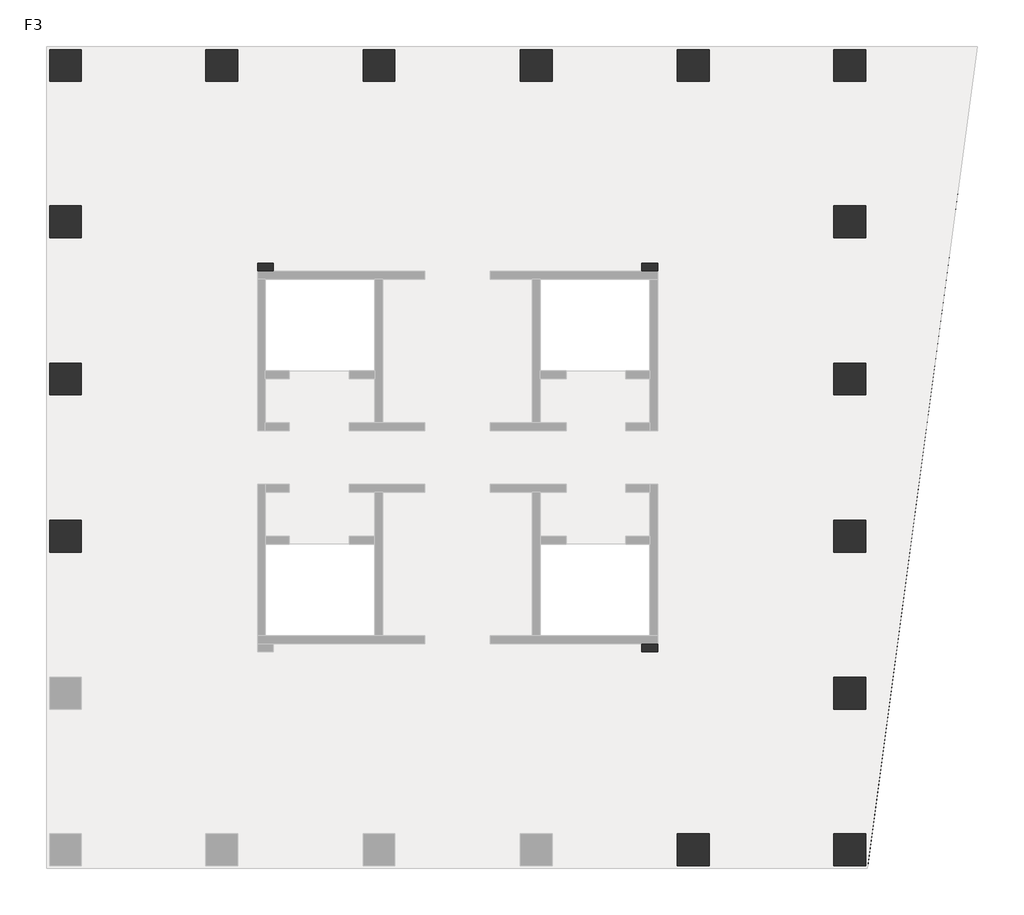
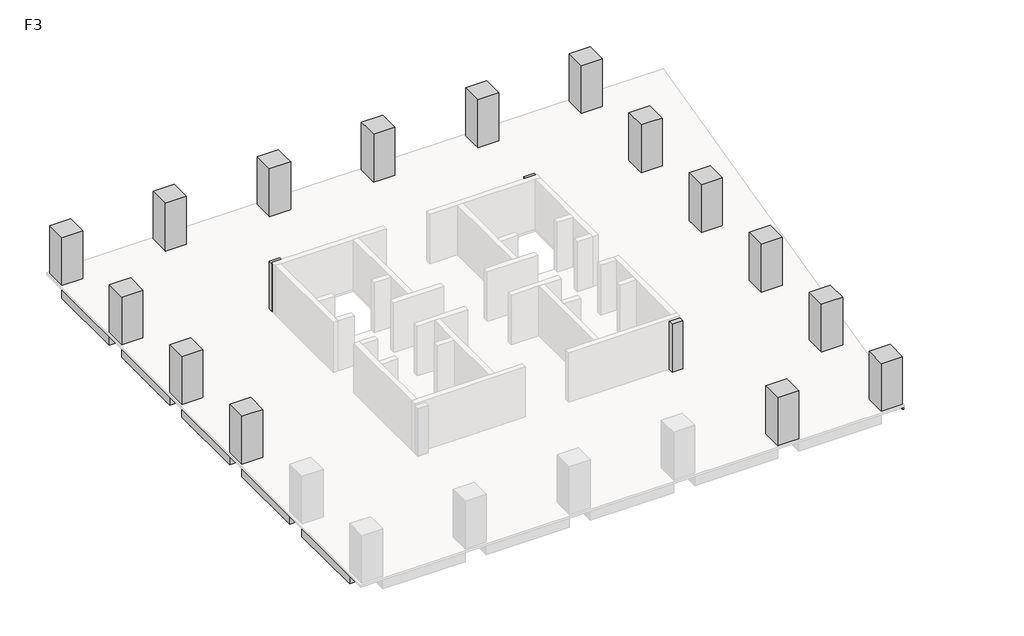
# One storey, part 2 of 2: 21 beams, 18 columns.
"""IFC4 building model written with IfcOpenShell, lengths in millimetres."""

from ifc_helpers import new_model, si_unit, frame, origin, place, context, project, spatial, polyline, outline, extrude, faceted_brep, element, save

model = new_model("IFC4")

# Units and contexts
model_context = context("Model", 3, world=origin())
ifc_project = project(units=[si_unit("LENGTHUNIT", "METRE", prefix="MILLI")], contexts=[model_context])

# Site, building, storey
site = spatial("IfcSite", under=ifc_project)
building = spatial("IfcBuilding", under=site)
storey = spatial("IfcBuildingStorey", under=building, Name="F3", Elevation=12000.0)

# Beams
placement = place(None, origin())
element("IfcBeam", 1, ObjectType="混凝土 - 矩形梁 : KL(5)-800x1000", at=placement, inside=storey, context=model_context, shape_type="SweptSolid", body=[
    extrude(outline(polyline([(25327.3257831, 27051.0498658), (25327.3257831, 26251.0498658), (19077.3257831, 26251.0498658), (19077.3257831, 27051.0498658), (25327.3257831, 27051.0498658)])), frame((0.0, 0.0, 11000.0), z_axis=(0.0, 0.0, 1.0), x_axis=(1.0, 0.0, 0.0)), (0.0, 0.0, 1.0), 840.0),
    extrude(outline(polyline([(-12472.6742169, 26251.0498658), (-12472.6742169, 27051.0498658), (-6222.6742169, 27051.0498658), (-6222.6742169, 26251.0498658), (-12472.6742169, 26251.0498658)])), frame((0.0, 0.0, 11000.0), z_axis=(0.0, 0.0, 1.0), x_axis=(1.0, 0.0, 0.0)), (0.0, 0.0, 1.0), 840.0),
    extrude(outline(polyline([(-4622.6742169, 26251.0498658), (-4622.6742169, 27051.0498658), (1677.3257831, 27051.0498658), (1677.3257831, 26251.0498658), (-4622.6742169, 26251.0498658)])), frame((0.0, 0.0, 11000.0), z_axis=(0.0, 0.0, 1.0), x_axis=(1.0, 0.0, 0.0)), (0.0, 0.0, 1.0), 840.0),
    extrude(outline(polyline([(3277.3257831, 26251.0498658), (3277.3257831, 27051.0498658), (9577.3257831, 27051.0498658), (9577.3257831, 26251.0498658), (3277.3257831, 26251.0498658)])), frame((0.0, 0.0, 11000.0), z_axis=(0.0, 0.0, 1.0), x_axis=(1.0, 0.0, 0.0)), (0.0, 0.0, 1.0), 840.0),
    extrude(outline(polyline([(11177.3257831, 26251.0498658), (11177.3257831, 27051.0498658), (17477.3257831, 27051.0498658), (17477.3257831, 26251.0498658), (11177.3257831, 26251.0498658)])), frame((0.0, 0.0, 11000.0), z_axis=(0.0, 0.0, 1.0), x_axis=(1.0, 0.0, 0.0)), (0.0, 0.0, 1.0), 840.0),
])
element("IfcBeam", 2, ObjectType="混凝土 - 矩形梁 : KL(5)-800x1000", at=placement, inside=storey, context=model_context, shape_type="Brep", body=[
    faceted_brep([(26927.3257831, 26251.0498658, 11000.0), (32422.0087099, 26251.0498658, 11000.0), (32422.0087099, 26251.0498658, 11840.0), (32018.4257091, 26251.0498658, 11840.0), (26927.3257831, 26251.0498658, 11840.0), (32422.0087099, 27051.0498658, 11000.0), (26927.3257831, 27051.0498658, 11000.0), (26927.3257831, 27051.0498658, 11840.0), (32422.0087099, 27051.0498658, 11840.0)], [[[0, 1, 2, 3, 4]], [[5, 1, 0, 6]], [[5, 6, 7, 8]], [[1, 5, 8, 2]], [[6, 0, 4, 7]], [[4, 3, 2, 8, 7]]]),
])
element("IfcBeam", 3, ObjectType="混凝土 - 矩形梁 : KL(5)-800x1000", at=placement, inside=storey, context=model_context, shape_type="Brep", body=[
    faceted_brep([(26127.3257831, -6098.9501342, 11000.0), (26127.3257831, -12348.9501342, 11000.0), (26127.3257831, -12348.9501342, 11840.0), (26127.3257831, -6098.9501342, 11840.0), (26927.3257831, -12348.9501342, 11000.0), (26927.3257831, -6098.9501342, 11000.0), (26927.3257831, -6098.9501342, 11840.0), (26927.3257831, -11700.7859463, 11840.0), (26927.3257831, -12348.9501342, 11840.0)], [[[0, 1, 2, 3]], [[4, 1, 0, 5]], [[4, 5, 6, 7, 8]], [[1, 4, 8, 2]], [[5, 0, 3, 6]], [[3, 2, 8, 7, 6]]]),
    faceted_brep([(26927.3257831, 25451.0498658, 11000.0), (26127.3257831, 25451.0498658, 11000.0), (26127.3257831, 25451.0498658, 11840.0), (26927.3257831, 25451.0498658, 11840.0), (26127.3257831, 19201.0498658, 11000.0), (26927.3257831, 19201.0498658, 11000.0), (26927.3257831, 19201.0498658, 11840.0), (26127.3257831, 19201.0498658, 11840.0)], [[[0, 1, 2, 3]], [[4, 5, 6, 7]], [[1, 4, 7, 2]], [[1, 0, 5, 4]], [[5, 0, 3, 6]], [[3, 2, 7, 6]]]),
    faceted_brep([(26927.3257831, 17601.0498658, 11000.0), (26127.3257831, 17601.0498658, 11000.0), (26127.3257831, 17601.0498658, 11840.0), (26927.3257831, 17601.0498658, 11840.0), (26127.3257831, 11301.0498658, 11000.0), (26927.3257831, 11301.0498658, 11000.0), (26927.3257831, 11301.0498658, 11840.0), (26127.3257831, 11301.0498658, 11840.0)], [[[0, 1, 2, 3]], [[4, 5, 6, 7]], [[1, 4, 7, 2]], [[1, 0, 5, 4]], [[5, 0, 3, 6]], [[3, 2, 7, 6]]]),
    faceted_brep([(26927.3257831, 9701.0498658, 11000.0), (26127.3257831, 9701.0498658, 11000.0), (26127.3257831, 9701.0498658, 11840.0), (26927.3257831, 9701.0498658, 11840.0), (26127.3257831, 3401.0498658, 11000.0), (26927.3257831, 3401.0498658, 11000.0), (26927.3257831, 3401.0498658, 11840.0), (26127.3257831, 3401.0498658, 11840.0)], [[[0, 1, 2, 3]], [[4, 5, 6, 7]], [[1, 4, 7, 2]], [[1, 0, 5, 4]], [[5, 0, 3, 6]], [[3, 2, 7, 6]]]),
    faceted_brep([(26927.3257831, 1801.0498658, 11000.0), (26127.3257831, 1801.0498658, 11000.0), (26127.3257831, 1801.0498658, 11840.0), (26927.3257831, 1801.0498658, 11840.0), (26127.3257831, -4498.9501342, 11000.0), (26927.3257831, -4498.9501342, 11000.0), (26927.3257831, -4498.9501342, 11840.0), (26127.3257831, -4498.9501342, 11840.0)], [[[0, 1, 2, 3]], [[4, 5, 6, 7]], [[1, 4, 7, 2]], [[1, 0, 5, 4]], [[5, 0, 3, 6]], [[3, 2, 7, 6]]]),
])
element("IfcBeam", 4, ObjectType="混凝土 - 矩形梁 : KL(5)-800x1000", at=placement, inside=storey, context=model_context, shape_type="SweptSolid", body=[
    extrude(outline(polyline([(-14072.6742169, 25451.0498658), (-13272.6742169, 25451.0498658), (-13272.6742169, 19201.0498658), (-14072.6742169, 19201.0498658), (-14072.6742169, 25451.0498658)])), frame((0.0, 0.0, 11000.0), z_axis=(0.0, 0.0, 1.0), x_axis=(1.0, 0.0, 0.0)), (0.0, 0.0, 1.0), 840.0),
    extrude(outline(polyline([(-13272.6742169, -12348.9501342), (-14072.6742169, -12348.9501342), (-14072.6742169, -6098.9501342), (-13272.6742169, -6098.9501342), (-13272.6742169, -12348.9501342)])), frame((0.0, 0.0, 11000.0), z_axis=(0.0, 0.0, 1.0), x_axis=(1.0, 0.0, 0.0)), (0.0, 0.0, 1.0), 840.0),
    extrude(outline(polyline([(-14072.6742169, 17601.0498658), (-13272.6742169, 17601.0498658), (-13272.6742169, 11301.0498658), (-14072.6742169, 11301.0498658), (-14072.6742169, 17601.0498658)])), frame((0.0, 0.0, 11000.0), z_axis=(0.0, 0.0, 1.0), x_axis=(1.0, 0.0, 0.0)), (0.0, 0.0, 1.0), 840.0),
    extrude(outline(polyline([(-14072.6742169, 9701.0498658), (-13272.6742169, 9701.0498658), (-13272.6742169, 3401.0498658), (-14072.6742169, 3401.0498658), (-14072.6742169, 9701.0498658)])), frame((0.0, 0.0, 11000.0), z_axis=(0.0, 0.0, 1.0), x_axis=(1.0, 0.0, 0.0)), (0.0, 0.0, 1.0), 840.0),
    extrude(outline(polyline([(-14072.6742169, 1801.0498658), (-13272.6742169, 1801.0498658), (-13272.6742169, -4498.9501342), (-14072.6742169, -4498.9501342), (-14072.6742169, 1801.0498658)])), frame((0.0, 0.0, 11000.0), z_axis=(0.0, 0.0, 1.0), x_axis=(1.0, 0.0, 0.0)), (0.0, 0.0, 1.0), 840.0),
])
element("IfcBeam", 5, ObjectType="混凝土 - 矩形梁 : L1-800x500", at=placement, inside=storey, context=model_context, shape_type="SweptSolid", body=[
    extrude(outline(polyline([(-12472.6742169, 2201.0498658), (-12472.6742169, 3001.0498658), (-3622.6742169, 3001.0498658), (-3622.6742169, 2201.0498658), (-12472.6742169, 2201.0498658)])), frame((0.0, 0.0, 11500.0), z_axis=(0.0, 0.0, 1.0), x_axis=(1.0, 0.0, 0.0)), (0.0, 0.0, 1.0), 340.0),
])
element("IfcBeam", 6, ObjectType="混凝土 - 矩形梁 : L1-800x500", at=placement, inside=storey, context=model_context, shape_type="SweptSolid", body=[
    extrude(outline(polyline([(-12472.6742169, 10101.0498658), (-12472.6742169, 10901.0498658), (-3622.6742169, 10901.0498658), (-3622.6742169, 10101.0498658), (-12472.6742169, 10101.0498658)])), frame((0.0, 0.0, 11500.0), z_axis=(0.0, 0.0, 1.0), x_axis=(1.0, 0.0, 0.0)), (0.0, 0.0, 1.0), 340.0),
])
element("IfcBeam", 7, ObjectType="混凝土 - 矩形梁 : L1-800x500", at=placement, inside=storey, context=model_context, shape_type="Brep", body=[
    faceted_brep([(-12472.6742169, 17789.85471, 11500.0), (-3622.6742169, 15588.3621727, 11500.0), (-3622.6742169, 15588.3621727, 11840.0), (-12472.6742169, 17789.85471, 11840.0), (-3173.6696907, 16301.0498658, 11500.0), (-3622.6742169, 16301.0498658, 11500.0), (-3622.6742169, 15901.0498658, 11500.0), (-12472.6742169, 18614.2350714, 11500.0), (-3746.9473979, 16443.6562607, 11500.0), (-12472.6742169, 18614.2350714, 11840.0), (-3746.9473979, 16443.6562607, 11840.0), (-3173.6696907, 16301.0498658, 11840.0), (-3622.6742169, 16301.0498658, 11840.0)], [[[0, 1, 2, 3]], [[4, 5, 6, 1, 0, 7, 8]], [[4, 8, 7, 9, 10, 11]], [[6, 5, 12, 2, 1]], [[5, 4, 11, 12]], [[7, 0, 3, 9]], [[3, 2, 12, 11, 10, 9]]]),
])
element("IfcBeam", 8, ObjectType="混凝土 - 矩形梁 : L1-800x500", at=placement, inside=storey, context=model_context, shape_type="SweptSolid", body=[
    extrude(outline(polyline([(-3173.6696907, 16301.0498658), (-3746.9473979, 16443.6562607), (-5661.5624638, 25451.0498658), (-4843.6893517, 25451.0498658), (-2898.7618154, 16301.0498658), (-3173.6696907, 16301.0498658)])), frame((0.0, 0.0, 11500.0), z_axis=(0.0, 0.0, 1.0), x_axis=(1.0, 0.0, 0.0)), (0.0, 0.0, 1.0), 340.0),
])
element("IfcBeam", 9, ObjectType="混凝土 - 矩形梁 : L1-800x500", at=placement, inside=storey, context=model_context, shape_type="SweptSolid", body=[
    extrude(outline(polyline([(2077.3257831, 25451.0498658), (2877.3257831, 25451.0498658), (2877.3257831, 15901.0498658), (2077.3257831, 15901.0498658), (2077.3257831, 25451.0498658)])), frame((0.0, 0.0, 11500.0), z_axis=(0.0, 0.0, 1.0), x_axis=(1.0, 0.0, 0.0)), (0.0, 0.0, 1.0), 340.0),
])
element("IfcBeam", 10, ObjectType="混凝土 - 矩形梁 : L1-800x500", at=placement, inside=storey, context=model_context, shape_type="SweptSolid", body=[
    extrude(outline(polyline([(9977.3257831, 25451.0498658), (10777.3257831, 25451.0498658), (10777.3257831, 15901.0498658), (9977.3257831, 15901.0498658), (9977.3257831, 25451.0498658)])), frame((0.0, 0.0, 11500.0), z_axis=(0.0, 0.0, 1.0), x_axis=(1.0, 0.0, 0.0)), (0.0, 0.0, 1.0), 340.0),
])
element("IfcBeam", 11, ObjectType="混凝土 - 矩形梁 : L1-800x500", at=placement, inside=storey, context=model_context, shape_type="Brep", body=[
    faceted_brep([(25327.3257831, -4687.7549784, 11500.0), (16477.3257831, -2486.2624411, 11500.0), (16477.3257831, -2486.2624411, 11840.0), (25327.3257831, -4687.7549784, 11840.0), (16028.3212569, -3198.9501342, 11500.0), (16477.3257831, -3198.9501342, 11500.0), (16477.3257831, -2798.9501342, 11500.0), (25327.3257831, -5512.1353397, 11500.0), (16601.5989641, -3341.556529, 11500.0), (25327.3257831, -5512.1353397, 11840.0), (16601.5989641, -3341.556529, 11840.0), (16028.3212569, -3198.9501342, 11840.0), (16477.3257831, -3198.9501342, 11840.0)], [[[0, 1, 2, 3]], [[4, 5, 6, 1, 0, 7, 8]], [[4, 8, 7, 9, 10, 11]], [[6, 5, 12, 2, 1]], [[5, 4, 11, 12]], [[7, 0, 3, 9]], [[3, 2, 12, 11, 10, 9]]]),
])
element("IfcBeam", 12, ObjectType="混凝土 - 矩形梁 : L1-800x500", at=placement, inside=storey, context=model_context, shape_type="SweptSolid", body=[
    extrude(outline(polyline([(16028.3212569, -3198.9501342), (16601.5989641, -3341.556529), (18516.21403, -12348.9501342), (17698.3409179, -12348.9501342), (15753.4133817, -3198.9501342), (16028.3212569, -3198.9501342)])), frame((0.0, 0.0, 11500.0), z_axis=(0.0, 0.0, 1.0), x_axis=(1.0, 0.0, 0.0)), (0.0, 0.0, 1.0), 340.0),
])
element("IfcBeam", 13, ObjectType="混凝土 - 矩形梁 : L1-800x500", at=placement, inside=storey, context=model_context, shape_type="SweptSolid", body=[
    extrude(outline(polyline([(25327.3257831, 3001.0498658), (25327.3257831, 2201.0498658), (16477.3257831, 2201.0498658), (16477.3257831, 3001.0498658), (25327.3257831, 3001.0498658)])), frame((0.0, 0.0, 11500.0), z_axis=(0.0, 0.0, 1.0), x_axis=(1.0, 0.0, 0.0)), (0.0, 0.0, 1.0), 340.0),
])
element("IfcBeam", 14, ObjectType="混凝土 - 矩形梁 : L1-800x500", at=placement, inside=storey, context=model_context, shape_type="SweptSolid", body=[
    extrude(outline(polyline([(25327.3257831, 10901.0498658), (25327.3257831, 10101.0498658), (16477.3257831, 10101.0498658), (16477.3257831, 10901.0498658), (25327.3257831, 10901.0498658)])), frame((0.0, 0.0, 11500.0), z_axis=(0.0, 0.0, 1.0), x_axis=(1.0, 0.0, 0.0)), (0.0, 0.0, 1.0), 340.0),
])
element("IfcBeam", 15, ObjectType="混凝土 - 矩形梁 : L1-800x500", at=placement, inside=storey, context=model_context, shape_type="Brep", body=[
    faceted_brep([(25327.3257831, 18610.6867312, 11500.0), (16590.8993897, 16393.3196262, 11500.0), (16227.3565337, 16301.0498658, 11500.0), (16227.3565337, 16301.0498658, 11840.0), (16590.8993897, 16393.3196262, 11840.0), (25327.3257831, 18610.6867312, 11840.0), (16477.3257831, 16301.0498658, 11500.0), (25327.3257831, 17785.3216299, 11500.0), (16477.3257831, 15539.1287365, 11500.0), (16477.3257831, 15901.0498658, 11500.0), (25327.3257831, 17785.3216299, 11840.0), (16477.3257831, 15539.1287365, 11840.0), (16477.3257831, 16301.0498658, 11840.0)], [[[0, 1, 2, 3, 4, 5]], [[6, 2, 1, 0, 7, 8, 9]], [[8, 7, 10, 11]], [[9, 8, 11, 12, 6]], [[2, 6, 12, 3]], [[7, 0, 5, 10]], [[5, 4, 3, 12, 11, 10]]]),
])
element("IfcBeam", 16, ObjectType="混凝土 - 矩形梁 : L1-800x500", at=placement, inside=storey, context=model_context, shape_type="SweptSolid", body=[
    extrude(outline(polyline([(16590.8993897, 16393.3196262), (16227.3565337, 16301.0498658), (15753.4133817, 16301.0498658), (17698.3409179, 25451.0498658), (18516.21403, 25451.0498658), (16590.8993897, 16393.3196262)])), frame((0.0, 0.0, 11500.0), z_axis=(0.0, 0.0, 1.0), x_axis=(1.0, 0.0, 0.0)), (0.0, 0.0, 1.0), 340.0),
])
element("IfcBeam", 17, ObjectType="混凝土 - 矩形梁 : L2-400x400", at=placement, inside=storey, context=model_context, shape_type="Brep", body=[
    faceted_brep([(32422.0087099, 26251.0498658, 11600.0), (27029.3257831, -13948.9501342, 11600.0), (26927.3257831, -13935.2672073, 11600.0), (26927.3257831, -11700.7859463, 11600.0), (27759.2793677, -5498.9501342, 11600.0), (27812.9379042, -5098.9501342, 11600.0), (28819.0354652, 2401.0498658, 11600.0), (28872.6940018, 2801.0498658, 11600.0), (29878.7915628, 10301.0498658, 11600.0), (29932.4500994, 10701.0498658, 11600.0), (30938.5476603, 18201.0498658, 11600.0), (30992.2061969, 18601.0498658, 11600.0), (32018.4257091, 26251.0498658, 11600.0), (32422.0087099, 26251.0498658, 11840.0), (27029.3257831, -13948.9501342, 11840.0), (32018.4257091, 26251.0498658, 11840.0), (26927.3257831, -13935.2672073, 11840.0), (26927.3257831, -12348.9501342, 11840.0), (26927.3257831, -11700.7859463, 11840.0), (27759.2793677, -5498.9501342, 11840.0), (27812.9379042, -5098.9501342, 11840.0), (28819.0354652, 2401.0498658, 11840.0), (28872.6940018, 2801.0498658, 11840.0), (29878.7915628, 10301.0498658, 11840.0), (29932.4500994, 10701.0498658, 11840.0), (30938.5476603, 18201.0498658, 11840.0), (30992.2061969, 18601.0498658, 11840.0)], [[[0, 1, 2, 3, 4, 5, 6, 7, 8, 9, 10, 11, 12]], [[1, 0, 13, 14]], [[0, 12, 15, 13]], [[3, 2, 16, 17, 18]], [[12, 11, 10, 9, 8, 7, 6, 5, 4, 3, 18, 19, 20, 21, 22, 23, 24, 25, 26, 15]], [[2, 1, 14, 16]], [[14, 13, 15, 26, 25, 24, 23, 22, 21, 20, 19, 18, 17, 16]]]),
])
element("IfcBeam", 18, ObjectType="混凝土 - 矩形梁 : L2-400x400", at=placement, inside=storey, context=model_context, shape_type="SweptSolid", body=[
    extrude(outline(polyline([(30938.5476603, 18201.0498658), (26927.3257831, 18201.0498658), (26927.3257831, 18601.0498658), (30992.2061969, 18601.0498658), (30938.5476603, 18201.0498658)])), frame((0.0, 0.0, 11600.0), z_axis=(0.0, 0.0, 1.0), x_axis=(1.0, 0.0, 0.0)), (0.0, 0.0, 1.0), 240.0),
])
element("IfcBeam", 19, ObjectType="混凝土 - 矩形梁 : L2-400x400", at=placement, inside=storey, context=model_context, shape_type="SweptSolid", body=[
    extrude(outline(polyline([(29878.7915628, 10301.0498658), (26927.3257831, 10301.0498658), (26927.3257831, 10701.0498658), (29932.4500994, 10701.0498658), (29878.7915628, 10301.0498658)])), frame((0.0, 0.0, 11600.0), z_axis=(0.0, 0.0, 1.0), x_axis=(1.0, 0.0, 0.0)), (0.0, 0.0, 1.0), 240.0),
])
element("IfcBeam", 20, ObjectType="混凝土 - 矩形梁 : L2-400x400", at=placement, inside=storey, context=model_context, shape_type="SweptSolid", body=[
    extrude(outline(polyline([(28819.0354652, 2401.0498658), (26927.3257831, 2401.0498658), (26927.3257831, 2801.0498658), (28872.6940018, 2801.0498658), (28819.0354652, 2401.0498658)])), frame((0.0, 0.0, 11600.0), z_axis=(0.0, 0.0, 1.0), x_axis=(1.0, 0.0, 0.0)), (0.0, 0.0, 1.0), 240.0),
])
element("IfcBeam", 21, ObjectType="混凝土 - 矩形梁 : L2-400x400", at=placement, inside=storey, context=model_context, shape_type="SweptSolid", body=[
    extrude(outline(polyline([(27759.2793677, -5498.9501342), (26927.3257831, -5498.9501342), (26927.3257831, -5098.9501342), (27812.9379042, -5098.9501342), (27759.2793677, -5498.9501342)])), frame((0.0, 0.0, 11600.0), z_axis=(0.0, 0.0, 1.0), x_axis=(1.0, 0.0, 0.0)), (0.0, 0.0, 1.0), 240.0),
])

# Columns
element("IfcColumn", 22, ObjectType="混凝土 - 矩形 - 柱 : Z1-1600x1600", at=placement, inside=storey, context=model_context, shape_type="SweptSolid", body=[
    extrude(outline(polyline([(-12472.6742169, 27051.0498658), (-12472.6742169, 25451.0498658), (-14072.6742169, 25451.0498658), (-14072.6742169, 27051.0498658), (-12472.6742169, 27051.0498658)])), frame((0.0, 0.0, 12000.0), z_axis=(0.0, 0.0, 1.0), x_axis=(1.0, 0.0, 0.0)), (0.0, 0.0, 1.0), 3840.0),
])
element("IfcColumn", 23, ObjectType="混凝土 - 矩形 - 柱 : Z1-1600x1600", at=placement, inside=storey, context=model_context, shape_type="Brep", body=[
    faceted_brep([(-4622.6742169, 27051.0498658, 12000.0), (-4622.6742169, 25451.0498658, 12000.0), (-6222.6742169, 25451.0498658, 12000.0), (-6222.6742169, 27051.0498658, 12000.0), (-4622.6742169, 27051.0498658, 15000.0), (-4622.6742169, 27051.0498658, 15840.0), (-4622.6742169, 26251.0498658, 15840.0), (-4622.6742169, 25451.0498658, 15840.0), (-6222.6742169, 25451.0498658, 15840.0), (-6222.6742169, 26251.0498658, 15840.0), (-6222.6742169, 27051.0498658, 15840.0), (-6222.6742169, 27051.0498658, 15000.0)], [[[0, 1, 2, 3]], [[1, 0, 4, 5, 6, 7]], [[2, 1, 7, 8]], [[3, 2, 8, 9, 10, 11]], [[0, 3, 11, 10, 5, 4]], [[7, 6, 5, 10, 9, 8]]]),
])
element("IfcColumn", 24, ObjectType="混凝土 - 矩形 - 柱 : Z1-1600x1600", at=placement, inside=storey, context=model_context, shape_type="Brep", body=[
    faceted_brep([(-12472.6742169, 19201.0498658, 12000.0), (-12472.6742169, 17601.0498658, 12000.0), (-14072.6742169, 17601.0498658, 12000.0), (-14072.6742169, 19201.0498658, 12000.0), (-12472.6742169, 19201.0498658, 15840.0), (-12472.6742169, 17601.0498658, 15840.0), (-13272.6742169, 17601.0498658, 15840.0), (-14072.6742169, 17601.0498658, 15840.0), (-14072.6742169, 17601.0498658, 15000.0), (-14072.6742169, 19201.0498658, 15840.0), (-14072.6742169, 19201.0498658, 15000.0), (-13272.6742169, 19201.0498658, 15840.0)], [[[0, 1, 2, 3]], [[1, 0, 4, 5]], [[2, 1, 5, 6, 7, 8]], [[3, 2, 8, 7, 9, 10]], [[0, 3, 10, 9, 11, 4]], [[5, 4, 11, 9, 7, 6]]]),
])
element("IfcColumn", 25, ObjectType="混凝土 - 矩形 - 柱 : Z1-1600x1600", at=placement, inside=storey, context=model_context, shape_type="Brep", body=[
    faceted_brep([(-12472.6742169, 11301.0498658, 12000.0), (-12472.6742169, 9701.0498658, 12000.0), (-14072.6742169, 9701.0498658, 12000.0), (-14072.6742169, 11301.0498658, 12000.0), (-12472.6742169, 11301.0498658, 15840.0), (-12472.6742169, 9701.0498658, 15840.0), (-13272.6742169, 9701.0498658, 15840.0), (-14072.6742169, 9701.0498658, 15840.0), (-14072.6742169, 9701.0498658, 15000.0), (-14072.6742169, 11301.0498658, 15840.0), (-14072.6742169, 11301.0498658, 15000.0), (-13272.6742169, 11301.0498658, 15840.0)], [[[0, 1, 2, 3]], [[1, 0, 4, 5]], [[2, 1, 5, 6, 7, 8]], [[3, 2, 8, 7, 9, 10]], [[0, 3, 10, 9, 11, 4]], [[5, 4, 11, 9, 7, 6]]]),
])
element("IfcColumn", 26, ObjectType="混凝土 - 矩形 - 柱 : Z1-1600x1600", at=placement, inside=storey, context=model_context, shape_type="Brep", body=[
    faceted_brep([(-12472.6742169, 3401.0498658, 12000.0), (-12472.6742169, 1801.0498658, 12000.0), (-14072.6742169, 1801.0498658, 12000.0), (-14072.6742169, 3401.0498658, 12000.0), (-12472.6742169, 3401.0498658, 15840.0), (-12472.6742169, 1801.0498658, 15840.0), (-13272.6742169, 1801.0498658, 15840.0), (-14072.6742169, 1801.0498658, 15840.0), (-14072.6742169, 1801.0498658, 15000.0), (-14072.6742169, 3401.0498658, 15840.0), (-14072.6742169, 3401.0498658, 15000.0), (-13272.6742169, 3401.0498658, 15840.0)], [[[0, 1, 2, 3]], [[1, 0, 4, 5]], [[2, 1, 5, 6, 7, 8]], [[3, 2, 8, 7, 9, 10]], [[0, 3, 10, 9, 11, 4]], [[5, 4, 11, 9, 7, 6]]]),
])
element("IfcColumn", 27, ObjectType="混凝土 - 矩形 - 柱 : Z1-1600x1600", at=placement, inside=storey, context=model_context, shape_type="SweptSolid", body=[
    extrude(outline(polyline([(25327.3257831, 27051.0498658), (26927.3257831, 27051.0498658), (26927.3257831, 25451.0498658), (25327.3257831, 25451.0498658), (25327.3257831, 27051.0498658)])), frame((0.0, 0.0, 12000.0), z_axis=(0.0, 0.0, 1.0), x_axis=(1.0, 0.0, 0.0)), (0.0, 0.0, 1.0), 3840.0),
])
element("IfcColumn", 28, ObjectType="混凝土 - 矩形 - 柱 : Z1-1600x1600", at=placement, inside=storey, context=model_context, shape_type="Brep", body=[
    faceted_brep([(25327.3257831, 19201.0498658, 12000.0), (26927.3257831, 19201.0498658, 12000.0), (26927.3257831, 17601.0498658, 12000.0), (25327.3257831, 17601.0498658, 12000.0), (25327.3257831, 17601.0498658, 15840.0), (25327.3257831, 19201.0498658, 15840.0), (26927.3257831, 17601.0498658, 15000.0), (26927.3257831, 17601.0498658, 15840.0), (26127.3257831, 17601.0498658, 15840.0), (26927.3257831, 19201.0498658, 15000.0), (26927.3257831, 19201.0498658, 15840.0), (26127.3257831, 19201.0498658, 15840.0)], [[[0, 1, 2, 3]], [[0, 3, 4, 5]], [[3, 2, 6, 7, 8, 4]], [[2, 1, 9, 10, 7, 6]], [[1, 0, 5, 11, 10, 9]], [[5, 4, 8, 7, 10, 11]]]),
])
element("IfcColumn", 29, ObjectType="混凝土 - 矩形 - 柱 : Z1-1600x1600", at=placement, inside=storey, context=model_context, shape_type="Brep", body=[
    faceted_brep([(25327.3257831, 11301.0498658, 12000.0), (26927.3257831, 11301.0498658, 12000.0), (26927.3257831, 9701.0498658, 12000.0), (25327.3257831, 9701.0498658, 12000.0), (25327.3257831, 9701.0498658, 15840.0), (25327.3257831, 11301.0498658, 15840.0), (26927.3257831, 9701.0498658, 15000.0), (26927.3257831, 9701.0498658, 15840.0), (26127.3257831, 9701.0498658, 15840.0), (26927.3257831, 11301.0498658, 15000.0), (26927.3257831, 11301.0498658, 15840.0), (26127.3257831, 11301.0498658, 15840.0)], [[[0, 1, 2, 3]], [[0, 3, 4, 5]], [[3, 2, 6, 7, 8, 4]], [[2, 1, 9, 10, 7, 6]], [[1, 0, 5, 11, 10, 9]], [[5, 4, 8, 7, 10, 11]]]),
])
element("IfcColumn", 30, ObjectType="混凝土 - 矩形 - 柱 : Z1-1600x1600", at=placement, inside=storey, context=model_context, shape_type="Brep", body=[
    faceted_brep([(25327.3257831, 3401.0498658, 12000.0), (26927.3257831, 3401.0498658, 12000.0), (26927.3257831, 1801.0498658, 12000.0), (25327.3257831, 1801.0498658, 12000.0), (25327.3257831, 1801.0498658, 15840.0), (25327.3257831, 3401.0498658, 15840.0), (26927.3257831, 1801.0498658, 15000.0), (26927.3257831, 1801.0498658, 15840.0), (26127.3257831, 1801.0498658, 15840.0), (26927.3257831, 3401.0498658, 15000.0), (26927.3257831, 3401.0498658, 15840.0), (26127.3257831, 3401.0498658, 15840.0)], [[[0, 1, 2, 3]], [[0, 3, 4, 5]], [[3, 2, 6, 7, 8, 4]], [[2, 1, 9, 10, 7, 6]], [[1, 0, 5, 11, 10, 9]], [[5, 4, 8, 7, 10, 11]]]),
])
element("IfcColumn", 31, ObjectType="混凝土 - 矩形 - 柱 : Z1-1600x1600", at=placement, inside=storey, context=model_context, shape_type="Brep", body=[
    faceted_brep([(25327.3257831, -4498.9501342, 12000.0), (26927.3257831, -4498.9501342, 12000.0), (26927.3257831, -6098.9501342, 12000.0), (25327.3257831, -6098.9501342, 12000.0), (25327.3257831, -6098.9501342, 15840.0), (25327.3257831, -4498.9501342, 15840.0), (26927.3257831, -6098.9501342, 15000.0), (26927.3257831, -6098.9501342, 15840.0), (26127.3257831, -6098.9501342, 15840.0), (26927.3257831, -4498.9501342, 15000.0), (26927.3257831, -4498.9501342, 15840.0), (26127.3257831, -4498.9501342, 15840.0)], [[[0, 1, 2, 3]], [[0, 3, 4, 5]], [[3, 2, 6, 7, 8, 4]], [[2, 1, 9, 10, 7, 6]], [[1, 0, 5, 11, 10, 9]], [[5, 4, 8, 7, 10, 11]]]),
])
element("IfcColumn", 32, ObjectType="混凝土 - 矩形 - 柱 : Z1-1600x1600", at=placement, inside=storey, context=model_context, shape_type="SweptSolid", body=[
    extrude(outline(polyline([(25327.3257831, -12348.9501342), (26927.3257831, -12348.9501342), (26927.3257831, -13948.9501342), (25327.3257831, -13948.9501342), (25327.3257831, -12348.9501342)])), frame((0.0, 0.0, 12000.0), z_axis=(0.0, 0.0, 1.0), x_axis=(1.0, 0.0, 0.0)), (0.0, 0.0, 1.0), 3840.0),
])
element("IfcColumn", 33, ObjectType="混凝土 - 矩形 - 柱 : Z1-1600x1600", at=placement, inside=storey, context=model_context, shape_type="Brep", body=[
    faceted_brep([(3277.3257831, 27051.0498658, 12000.0), (3277.3257831, 25451.0498658, 12000.0), (1677.3257831, 25451.0498658, 12000.0), (1677.3257831, 27051.0498658, 12000.0), (3277.3257831, 27051.0498658, 15000.0), (3277.3257831, 27051.0498658, 15840.0), (3277.3257831, 26251.0498658, 15840.0), (3277.3257831, 25451.0498658, 15840.0), (1677.3257831, 25451.0498658, 15840.0), (1677.3257831, 26251.0498658, 15840.0), (1677.3257831, 27051.0498658, 15840.0), (1677.3257831, 27051.0498658, 15000.0)], [[[0, 1, 2, 3]], [[1, 0, 4, 5, 6, 7]], [[2, 1, 7, 8]], [[3, 2, 8, 9, 10, 11]], [[0, 3, 11, 10, 5, 4]], [[7, 6, 5, 10, 9, 8]]]),
])
element("IfcColumn", 34, ObjectType="混凝土 - 矩形 - 柱 : Z1-1600x1600", at=placement, inside=storey, context=model_context, shape_type="Brep", body=[
    faceted_brep([(11177.3257831, 27051.0498658, 12000.0), (11177.3257831, 25451.0498658, 12000.0), (9577.3257831, 25451.0498658, 12000.0), (9577.3257831, 27051.0498658, 12000.0), (11177.3257831, 27051.0498658, 15000.0), (11177.3257831, 27051.0498658, 15840.0), (11177.3257831, 26251.0498658, 15840.0), (11177.3257831, 25451.0498658, 15840.0), (9577.3257831, 25451.0498658, 15840.0), (9577.3257831, 26251.0498658, 15840.0), (9577.3257831, 27051.0498658, 15840.0), (9577.3257831, 27051.0498658, 15000.0)], [[[0, 1, 2, 3]], [[1, 0, 4, 5, 6, 7]], [[2, 1, 7, 8]], [[3, 2, 8, 9, 10, 11]], [[0, 3, 11, 10, 5, 4]], [[7, 6, 5, 10, 9, 8]]]),
])
element("IfcColumn", 35, ObjectType="混凝土 - 矩形 - 柱 : Z1-1600x1600", at=placement, inside=storey, context=model_context, shape_type="Brep", body=[
    faceted_brep([(19077.3257831, 27051.0498658, 12000.0), (19077.3257831, 25451.0498658, 12000.0), (17477.3257831, 25451.0498658, 12000.0), (17477.3257831, 27051.0498658, 12000.0), (19077.3257831, 27051.0498658, 15000.0), (19077.3257831, 27051.0498658, 15840.0), (19077.3257831, 26251.0498658, 15840.0), (19077.3257831, 25451.0498658, 15840.0), (17477.3257831, 25451.0498658, 15840.0), (17477.3257831, 26251.0498658, 15840.0), (17477.3257831, 27051.0498658, 15840.0), (17477.3257831, 27051.0498658, 15000.0)], [[[0, 1, 2, 3]], [[1, 0, 4, 5, 6, 7]], [[2, 1, 7, 8]], [[3, 2, 8, 9, 10, 11]], [[0, 3, 11, 10, 5, 4]], [[7, 6, 5, 10, 9, 8]]]),
])
element("IfcColumn", 36, ObjectType="混凝土 - 矩形 - 柱 : Z1-1600x1600", at=placement, inside=storey, context=model_context, shape_type="Brep", body=[
    faceted_brep([(19077.3257831, -12348.9501342, 12000.0), (19077.3257831, -13948.9501342, 12000.0), (17477.3257831, -13948.9501342, 12000.0), (17477.3257831, -12348.9501342, 12000.0), (19077.3257831, -12348.9501342, 15840.0), (19077.3257831, -13148.9501342, 15840.0), (19077.3257831, -13948.9501342, 15840.0), (19077.3257831, -13948.9501342, 15000.0), (17477.3257831, -13948.9501342, 15840.0), (17477.3257831, -13948.9501342, 15000.0), (17477.3257831, -13148.9501342, 15840.0), (17477.3257831, -12348.9501342, 15840.0)], [[[0, 1, 2, 3]], [[1, 0, 4, 5, 6, 7]], [[2, 1, 7, 6, 8, 9]], [[3, 2, 9, 8, 10, 11]], [[0, 3, 11, 4]], [[6, 5, 4, 11, 10, 8]]]),
])
element("IfcColumn", 37, ObjectType="混凝土 - 矩形 - 柱 : Z2-800x800", at=placement, inside=storey, context=model_context, shape_type="SweptSolid", body=[
    extrude(outline(polyline([(-3622.6742169, 16301.0498658), (-2822.6742169, 16301.0498658), (-2822.6742169, 15901.0498658), (-3622.6742169, 15901.0498658), (-3622.6742169, 16301.0498658)])), frame((0.0, 0.0, 12000.0), z_axis=(0.0, 0.0, 1.0), x_axis=(1.0, 0.0, 0.0)), (0.0, 0.0, 1.0), 3840.0),
])
element("IfcColumn", 38, ObjectType="混凝土 - 矩形 - 柱 : Z2-800x800", at=placement, inside=storey, context=model_context, shape_type="SweptSolid", body=[
    extrude(outline(polyline([(16477.3257831, -3198.9501342), (15677.3257831, -3198.9501342), (15677.3257831, -2798.9501342), (16477.3257831, -2798.9501342), (16477.3257831, -3198.9501342)])), frame((0.0, 0.0, 12000.0), z_axis=(0.0, 0.0, 1.0), x_axis=(1.0, 0.0, 0.0)), (0.0, 0.0, 1.0), 3840.0),
])
element("IfcColumn", 39, ObjectType="混凝土 - 矩形 - 柱 : Z2-800x800", at=placement, inside=storey, context=model_context, shape_type="SweptSolid", body=[
    extrude(outline(polyline([(15677.3257831, 16301.0498658), (16477.3257831, 16301.0498658), (16477.3257831, 15901.0498658), (15677.3257831, 15901.0498658), (15677.3257831, 16301.0498658)])), frame((0.0, 0.0, 12000.0), z_axis=(0.0, 0.0, 1.0), x_axis=(1.0, 0.0, 0.0)), (0.0, 0.0, 1.0), 3840.0),
])

save(model, "model.ifc")
